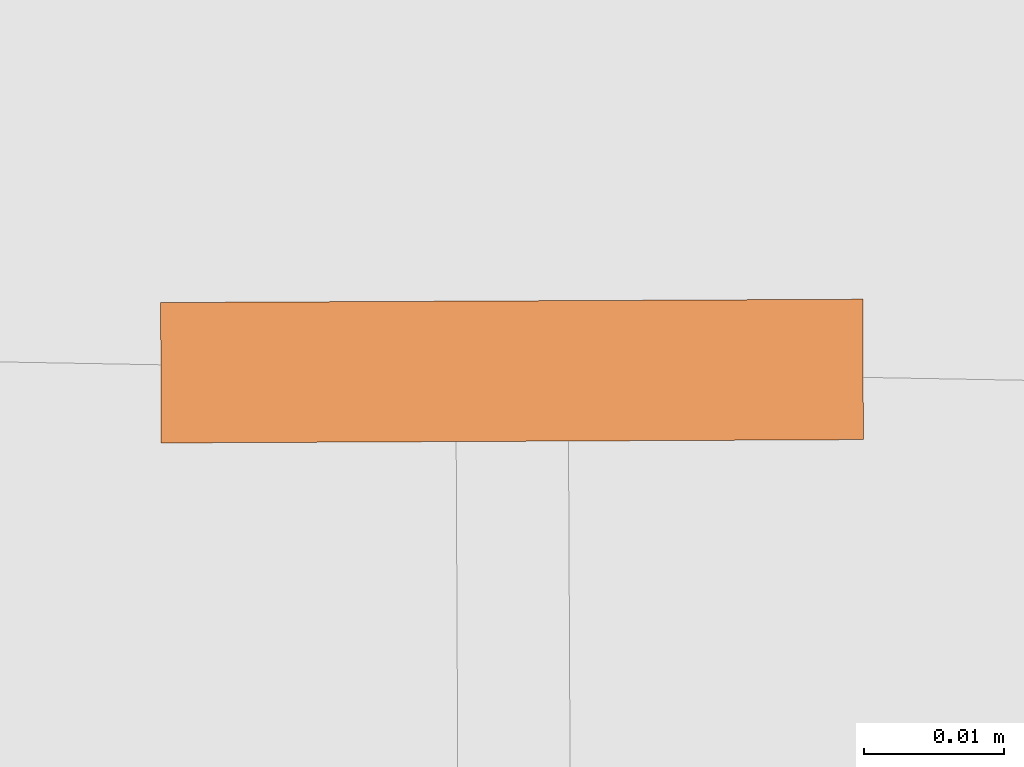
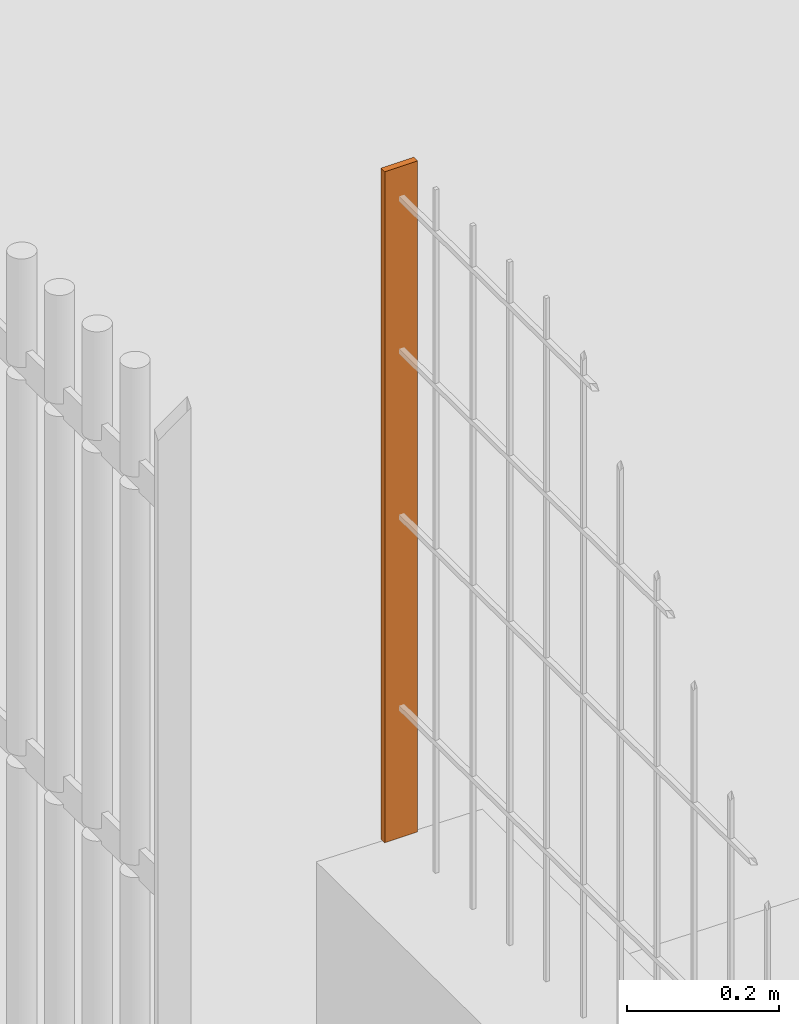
# One storey, part 33 of 1809: 1 proxy, 1 element without a shape of its own.
"""IFC2X3 building model written with IfcOpenShell, lengths in millimetres."""

from ifc_helpers import new_model, entity, si_unit, converted_unit, derived_unit, money_unit, direction, frame, origin_with_axes, place, context, subcontext, project, spatial, faceted_brep, source, transform, mapped, material, type_object, element, aggregate, save


model = new_model("IFC2X3")

# Units and contexts
model_context = context("Model", 3, precision=0.01, world=origin_with_axes(), true_north=direction((0.0, 1.0)))
body_context = subcontext(model_context, "Body", "Model", "MODEL_VIEW")
ifc_project = project(units=[si_unit("LENGTHUNIT", "METRE", prefix="MILLI"), si_unit("AREAUNIT", "SQUARE_METRE"), si_unit("VOLUMEUNIT", "CUBIC_METRE"), converted_unit("PLANEANGLEUNIT", "DEGREE", entity("IfcPlaneAngleMeasure", 0.0174532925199), si_unit("PLANEANGLEUNIT", "RADIAN"), dimensions=[0, 0, 0, 0, 0, 0, 0]), si_unit("SOLIDANGLEUNIT", "STERADIAN"), money_unit("EUR"), converted_unit("TIMEUNIT", "Year", entity("IfcTimeMeasure", 31556926.0), si_unit("TIMEUNIT", "SECOND"), dimensions=[0, 0, 1, 0, 0, 0, 0]), si_unit("MASSUNIT", "GRAM", prefix="KILO"), si_unit("THERMODYNAMICTEMPERATUREUNIT", "DEGREE_CELSIUS"), si_unit("LUMINOUSINTENSITYUNIT", "LUMEN"), si_unit("ENERGYUNIT", "JOULE", prefix="MEGA"), derived_unit("THERMALCONDUCTANCEUNIT", [(si_unit("POWERUNIT", "WATT"), 1), (si_unit("LENGTHUNIT", "METRE"), -1), (si_unit("THERMODYNAMICTEMPERATUREUNIT", "KELVIN"), -1)]), derived_unit("SPECIFICHEATCAPACITYUNIT", [(si_unit("ENERGYUNIT", "JOULE"), 1), (si_unit("MASSUNIT", "GRAM", prefix="KILO"), -1), (si_unit("THERMODYNAMICTEMPERATUREUNIT", "KELVIN"), -1)]), derived_unit("MASSDENSITYUNIT", [(si_unit("MASSUNIT", "GRAM", prefix="KILO"), 1), (si_unit("VOLUMEUNIT", "CUBIC_METRE"), -1)])], contexts=[model_context])

# Site, building, storey
site_placement = place(None, origin_with_axes())
site = spatial("IfcSite", under=ifc_project, at=site_placement, Name="Politse- ja Piirivalveameti ning Päästeameti ühishoone", CompositionType="ELEMENT")
building_placement = place(site_placement, origin_with_axes())
building = spatial("IfcBuilding", under=site, at=building_placement, Name="Politse- ja Piirivalveameti ning Päästeameti ühishoone", CompositionType="ELEMENT")
storey_placement = place(building_placement, origin_with_axes())
storey = spatial("IfcBuildingStorey", under=building, at=storey_placement, Name="Esimene korrus", CompositionType="ELEMENT", Elevation=0.0)

# Proxies
building_element_proxy_type_1 = type_object("IfcBuildingElementProxyType", Name="Railing Type", PredefinedType="NOTDEFINED")
proxy_1_placement = place(storey_placement, frame((88797.9754601, 13797.9382952, 177.658412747), z_axis=(0.0, 0.0, 1.0), x_axis=(1.0, 0.0, 0.0)))
proxy_1 = element("IfcBuildingElementProxy", 1, at=proxy_1_placement, inside=storey, type_object=building_element_proxy_type_1, Name="PIIRDEAED")
ifc_material = material(Name="Teras - Konstruktsioon")
building_element_proxy_type_2 = type_object("IfcBuildingElementProxyType", Name="IfcBuildingElementProxy", PredefinedType="NOTDEFINED")
shared_shape = source(origin_with_axes(), body_context, "Body", "Brep", [
    faceted_brep([(25.0, 5.0, 0.0), (-25.0, 5.0, 0.0), (-25.0, 4.99999999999, 1080.0), (25.0, 4.99999999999, 1080.0), (25.0, -5.0, 0.0), (-25.0, -5.0, 0.0), (-25.0, -5.00000000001, 1080.0), (25.0, -5.00000000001, 1080.0)], [[[0, 1, 2, 3]], [[0, 4, 5, 1]], [[1, 5, 6, 2]], [[3, 2, 6, 7]], [[4, 0, 3, 7]], [[5, 4, 7, 6]]]),
])
proxy_2_placement = place(proxy_1_placement, frame((222.171938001, 27356.5926668, 0.0), z_axis=(0.0, 0.0, 1.0), x_axis=(1.0, 0.0, 0.0)))
proxy_2 = element("IfcBuildingElementProxy", 2, at=proxy_2_placement, type_object=building_element_proxy_type_2, material=ifc_material, Name="PIIRDE POST - 001", context=body_context, shape_type="MappedRepresentation", body=[
    mapped(shared_shape, transform((0.0, 0.0, 0.0), x_axis=(0.999988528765, 0.00478981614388, 0.0), y_axis=(-0.00478981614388, 0.999988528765, 0.0), z_axis=(0.0, 0.0, 1.0))),
])
aggregate(proxy_1, [proxy_2])

save(model, "model.ifc")
